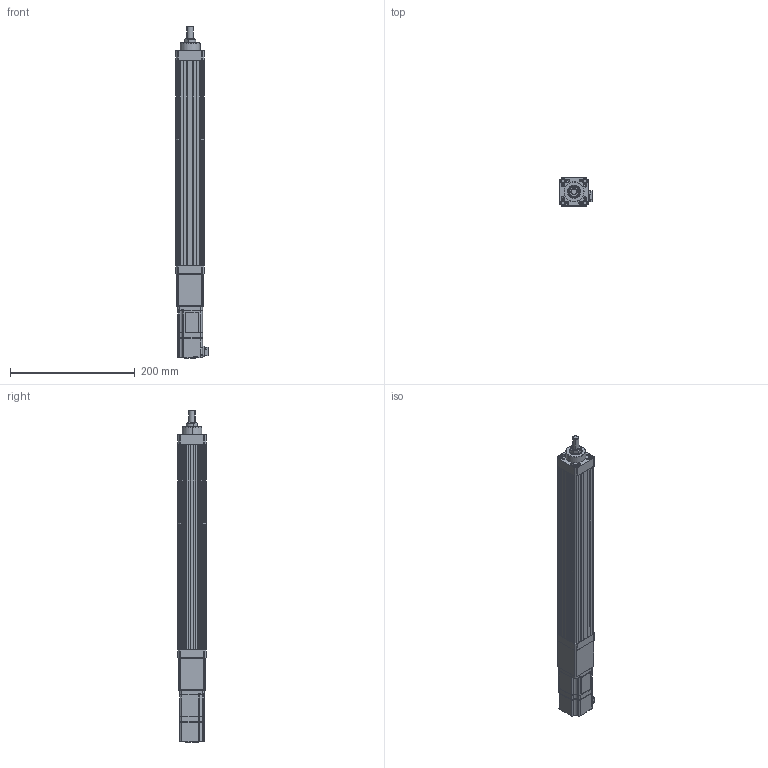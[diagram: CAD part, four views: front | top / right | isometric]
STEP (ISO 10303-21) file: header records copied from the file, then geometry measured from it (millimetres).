
FILE_DESCRIPTION (( 'STEP AP203' ), '1' );
FILE_NAME ('ANS045-S250-05(10)-W10-M.STEP', '2019-02-14T02:54:14', ( 'user' ), ( '' ), 'SwSTEP 2.0', 'SolidWorks 2013', '' );
FILE_SCHEMA (( 'CONFIG_CONTROL_DESIGN' ));
Length unit declared in the file: millimetre
Products named in the file (4): ANS045 S250 VER2; ANS045 ROD ST250 M; SGMJV_01A_A21; ANS045-S250-05(10)-W10-M
Assembly tree (3 placements, depth 2):
  ANS045-S250-05(10)-W10-M
    ANS045 S250 VER2
    ANS045 ROD ST250 M
    SGMJV_01A_A21
Bounding box: 51.3 x 45 x 532.1 mm (x, y, z)
Volume: 675933.4 mm3; surface area: 206936.2 mm2
Topology: 3 solids, 7 shells, 895 faces, 2251 edges, 1404 vertices
Faces by surface type: plane 480, cylinder 305, cone 108, bspline 2
Entity records: 26713 total; most frequent: CARTESIAN_POINT 5040, ORIENTED_EDGE 4438, DIRECTION 4413, EDGE_CURVE 2219, VECTOR 1507, LINE 1507, AXIS2_PLACEMENT_3D 1453, VERTEX_POINT 1404
